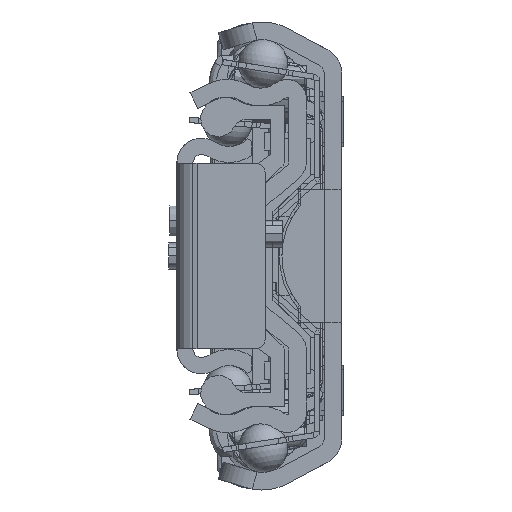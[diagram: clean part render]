
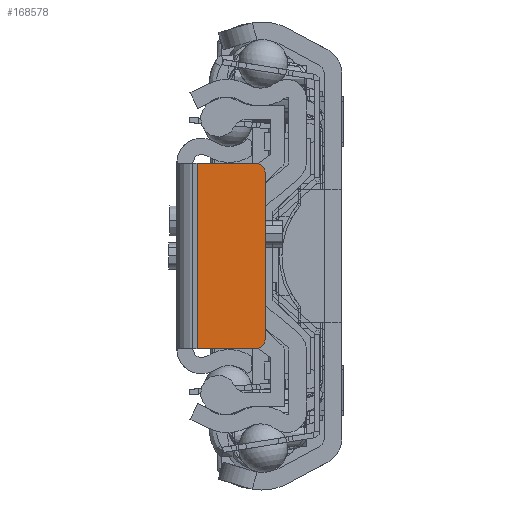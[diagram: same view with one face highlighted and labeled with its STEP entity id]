
A CAD part, left-side view. The second image highlights one B-rep face of the part: STEP entity #168578.
In plain terms, the highlighted planar face has unit normal (-1, 0, 0).
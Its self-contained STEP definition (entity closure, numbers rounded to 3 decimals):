
#163018=DIRECTION('',(0.,-1.,0.));
#163019=VECTOR('',#163018,6.7);
#163020=CARTESIAN_POINT('',(0.,-2.3,10.5));
#163021=LINE('',#163020,#163019);
#164041=DIRECTION('',(0.,-1.,0.));
#164042=VECTOR('',#164041,6.7);
#164043=CARTESIAN_POINT('',(0.,-2.3,-10.5));
#164044=LINE('',#164043,#164042);
#164045=CARTESIAN_POINT('',(0.,-9.,9.5));
#164046=DIRECTION('',(-1.,0.,0.));
#164047=DIRECTION('',(0.,-1.,0.));
#164048=AXIS2_PLACEMENT_3D('',#164045,#164046,#164047);
#164050=CARTESIAN_POINT('',(0.,-9.,-9.5));
#164051=DIRECTION('',(-1.,0.,0.));
#164052=DIRECTION('',(0.,0.,-1.));
#164053=AXIS2_PLACEMENT_3D('',#164050,#164051,#164052);
#164055=DIRECTION('',(0.,0.,1.));
#164056=VECTOR('',#164055,21.);
#164057=CARTESIAN_POINT('',(0.,-2.3,-10.5));
#164058=LINE('',#164057,#164056);
#164067=DIRECTION('',(0.,0.,1.));
#164068=VECTOR('',#164067,19.);
#164069=CARTESIAN_POINT('',(0.,-10.,-9.5));
#164070=LINE('',#164069,#164068);
#166848=CARTESIAN_POINT('',(0.,-2.3,-10.5));
#166849=CARTESIAN_POINT('',(0.,-2.3,10.5));
#166850=VERTEX_POINT('',#166848);
#166851=VERTEX_POINT('',#166849);
#166873=CARTESIAN_POINT('',(0.,-10.,9.5));
#166874=VERTEX_POINT('',#166873);
#166875=CARTESIAN_POINT('',(0.,-9.,10.5));
#166876=VERTEX_POINT('',#166875);
#166877=CARTESIAN_POINT('',(0.,-9.,-10.5));
#166878=CARTESIAN_POINT('',(0.,-10.,-9.5));
#166879=VERTEX_POINT('',#166877);
#166880=VERTEX_POINT('',#166878);
#168563=CARTESIAN_POINT('',(0.,-2.3,-10.5));
#168564=DIRECTION('',(-1.,0.,0.));
#168565=DIRECTION('',(0.,-1.,0.));
#168566=AXIS2_PLACEMENT_3D('',#168563,#168564,#168565);
#168567=PLANE('',#168566);
#168568=ORIENTED_EDGE('',*,*,#167990,.F.);
#168570=ORIENTED_EDGE('',*,*,#168569,.F.);
#168571=ORIENTED_EDGE('',*,*,#168554,.F.);
#168572=ORIENTED_EDGE('',*,*,#168544,.F.);
#168574=ORIENTED_EDGE('',*,*,#168573,.T.);
#168575=ORIENTED_EDGE('',*,*,#167967,.T.);
#168576=EDGE_LOOP('',(#168568,#168570,#168571,#168572,#168574,#168575));
#168577=FACE_OUTER_BOUND('',#168576,.F.);
#164049=CIRCLE('',#164048,1.);
#164054=CIRCLE('',#164053,1.);
#167967=EDGE_CURVE('',#166851,#166876,#163021,.T.);
#167990=EDGE_CURVE('',#166874,#166876,#164049,.T.);
#168544=EDGE_CURVE('',#166850,#166879,#164044,.T.);
#168554=EDGE_CURVE('',#166879,#166880,#164054,.T.);
#168569=EDGE_CURVE('',#166880,#166874,#164070,.T.);
#168573=EDGE_CURVE('',#166850,#166851,#164058,.T.);
#168578=ADVANCED_FACE('',(#168577),#168567,.T.);
